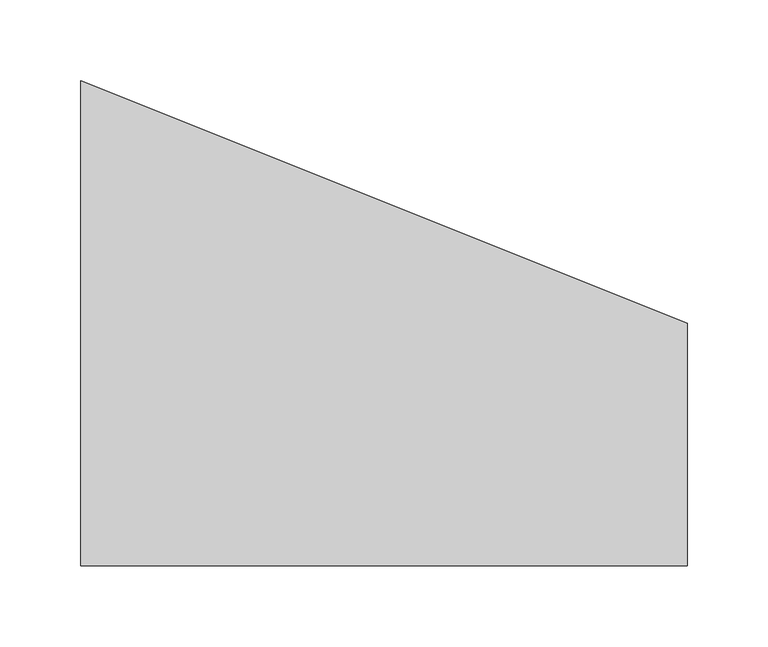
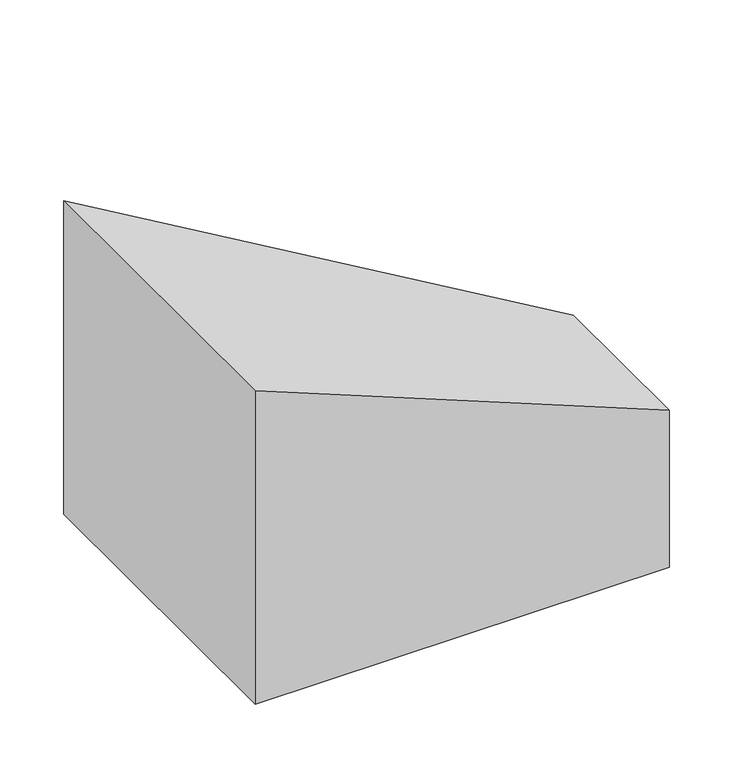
"""IFC4 building model written with IfcOpenShell, lengths in millimetres: duct fitting geometry, BL_ПереходникВоздуховодов_Прямоугольный : BL_ПереходникВоздуховодов_Прямоугольный."""

from ifc_helpers import new_model, si_unit, origin, place, context, project, spatial, faceted_brep, source, transform, mapped, element, save


def duct_fitting_3d329366(model_context):
    return source(origin(), model_context, "Body", "Brep", [
        faceted_brep([(375.0, -150.0, 0.0), (375.0, -150.0, -150.0), (375.0, 0.0, -150.0), (375.0, 0.0, 0.0), (0.0, -150.0, 150.0), (0.0, 150.0, 150.0), (0.0, 150.0, -150.0), (0.0, -150.0, -150.0)], [[[0, 1, 2, 3]], [[4, 5, 6, 7]], [[4, 7, 1, 0]], [[7, 6, 2, 1]], [[6, 5, 3, 2]], [[5, 4, 0, 3]]]),
    ])


if __name__ == "__main__":
    model = new_model("IFC4")
    model_context = context("Model", 3, world=origin())
    ifc_project = project(units=[si_unit("LENGTHUNIT", "METRE", prefix="MILLI")], contexts=[model_context])
    site = spatial("IfcSite", under=ifc_project)
    building = spatial("IfcBuilding", under=site)
    placement = place(None, origin())
    duct_fitting_shape = duct_fitting_3d329366(model_context)
    element("IfcDuctFitting", 1, ObjectType="BL_ПереходникВоздуховодов_Прямоугольный : BL_ПереходникВоздуховодов_Прямоугольный", at=placement, inside=building, context=model_context, shape_type="MappedRepresentation", body=[
        mapped(duct_fitting_shape, transform((0.0, 0.0, 0.0), x_axis=(1.0, 0.0, 0.0), y_axis=(0.0, 1.0, 0.0), z_axis=(0.0, 0.0, 1.0))),
    ])
    save(model, "model.ifc")
